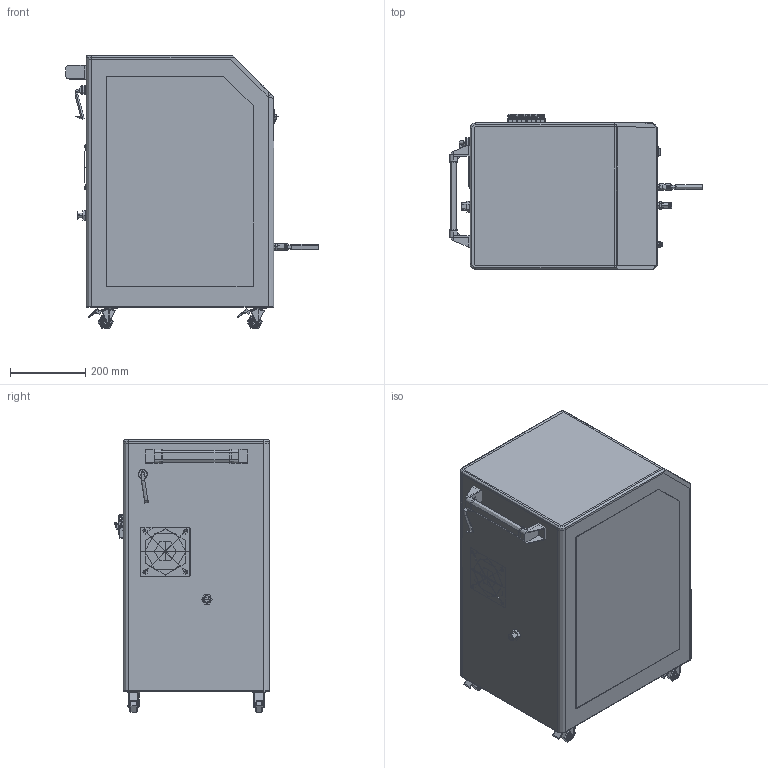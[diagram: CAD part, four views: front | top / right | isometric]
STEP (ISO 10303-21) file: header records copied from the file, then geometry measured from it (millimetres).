
FILE_DESCRIPTION(/* description */ (''),/* implementation_level */ '2;1');
FILE_NAME(/* name */ '1-2',/* time_stamp */ '2025-04-29T17:51:47+08:00',/* author */ (''),/* organization */ (''),/* preprocessor_version */ 'ST-DEVELOPER v19.2',/* originating_system */ 'Rhino 8.3',/* authorisation */ '');
FILE_SCHEMA (('CONFIG_CONTROL_DESIGN'));
Products named in the file (1): Document
Bounding box: 673.58 x 412.99 x 727.3 mm (x, y, z)
Volume: 2051023.4 mm3; surface area: 3602046.7 mm2
Topology: 2288 solids, 2691 shells, 17540 faces, 34892 edges, 22314 vertices
Faces by surface type: bspline 12926, plane 2728, cylinder 1886
Entity records: 769588 total; most frequent: CARTESIAN_POINT 510599, ORIENTED_EDGE 67773, EDGE_CURVE 34601, B_SPLINE_CURVE_WITH_KNOTS 27946, VERTEX_POINT 22237, EDGE_LOOP 18118, ADVANCED_FACE 17540, FACE_OUTER_BOUND 17540
